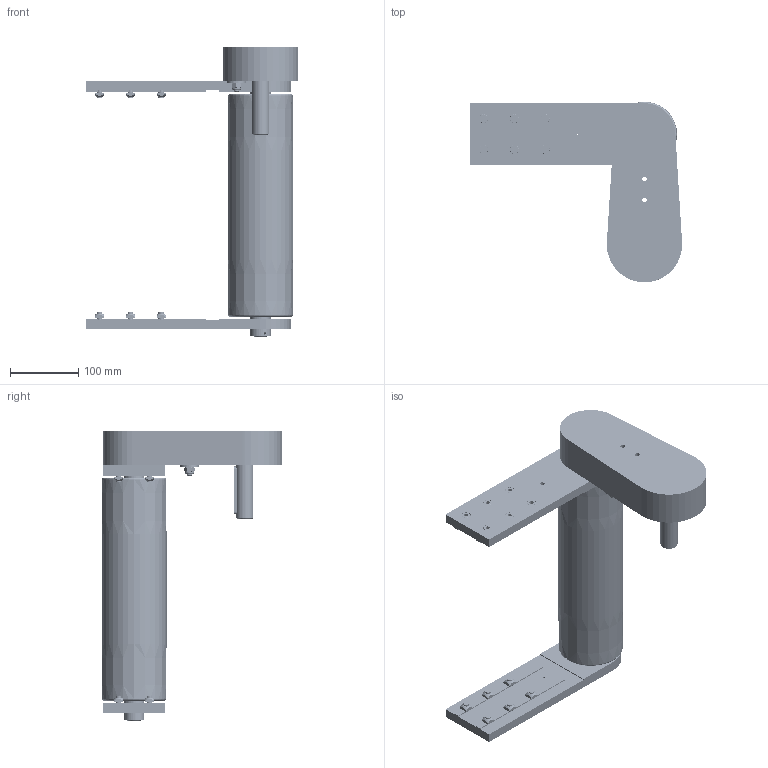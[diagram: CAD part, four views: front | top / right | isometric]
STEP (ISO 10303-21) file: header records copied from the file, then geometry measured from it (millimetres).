
FILE_DESCRIPTION (( 'STEP AP203' ), '1' );
FILE_NAME ('084.095.KTC.49.300.step', '2013-02-28T12:00:34', ( '' ), ( '' ), 'SwSTEP 2.0', 'SolidWorks 2011', '' );
FILE_SCHEMA (( 'CONFIG_CONTROL_DESIGN' ));
Products named in the file (24): 084.095.KTC.49.300; 084.813.005; 084.302.000 DADI ALUSIC 13x13_084.302.004; 084.301.000 VITI ALUSIC_084.301.003; 084.809.003; 084.810.005; Torque nut 01_ALUSIC_ISO 7040-M8-S; Plain Washer XLarge Grade C_ALUSIC_Washer ISO 7094 - 8; Circlip for Shafts normal_din_Circlip DIN 471 - 8 x 0.8; CUSCINETTI A SFERE_608-2RS; 084.810.004; 084.810.007; CHIAVETTE_A 8x7x70 UNI 6604-69; 084.803.012; 084.803.014; 084.809.002; 084.808.002_084.808.002; 084.808.003_084.808.003; 084.802.019_084.802.019; 084.802.034_084.802.034; 084.810.003; 084.813.002; 084.812.003; 084.816.102_084.816.107<A macchina>
Assembly tree (48 placements, depth 3):
  084.095.KTC.49.300
    084.302.000 DADI ALUSIC 13x13_084.302.004  x12
    084.301.000 VITI ALUSIC_084.301.003  x12
    084.803.014  x2
    084.803.012
    084.810.005
      CUSCINETTI A SFERE_608-2RS  x2
      Circlip for Shafts normal_din_Circlip DIN 471 - 8 x 0.8
      084.810.004
      084.810.007
      Plain Washer XLarge Grade C_ALUSIC_Washer ISO 7094 - 8
      Torque nut 01_ALUSIC_ISO 7040-M8-S
    084.808.002_084.808.002
    084.802.019_084.802.019
    084.809.003
    084.813.002
    084.816.102_084.816.107<A macchina>
    084.808.003_084.808.003
    084.813.005
    084.812.003
    CHIAVETTE_A 8x7x70 UNI 6604-69
    084.802.034_084.802.034
    084.809.002
    084.810.003  x2
Bounding box: 310 x 264 x 423.5 mm (x, y, z)
Volume: 1842645.1 mm3; surface area: 796366.9 mm2
Topology: 77 solids, 78 shells, 3128 faces, 7346 edges, 4692 vertices
Faces by surface type: cylinder 1493, plane 851, bspline 468, cone 197, torus 110, sphere 9
Entity records: 84145 total; most frequent: CARTESIAN_POINT 18919, DIRECTION 14131, ORIENTED_EDGE 12242, EDGE_CURVE 6121, AXIS2_PLACEMENT_3D 5953, VERTEX_POINT 3897, CIRCLE 3741, EDGE_LOOP 3202
